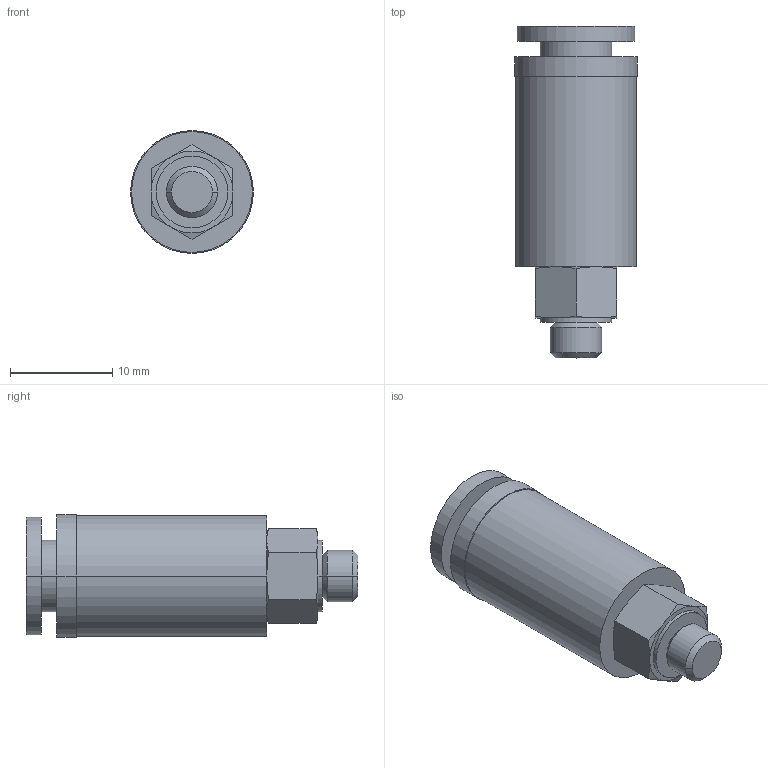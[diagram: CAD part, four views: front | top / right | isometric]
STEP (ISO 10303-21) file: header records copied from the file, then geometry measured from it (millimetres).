
FILE_DESCRIPTION( ( '' ), '1' );
FILE_NAME( 'G:/SMC狟婥/KCH06-M5.stp', '2023-03-08T05:59:53', ( '' ), ( '' ), ' ', ' ', ' ' );
FILE_SCHEMA( ( 'CONFIG_CONTROL_DESIGN' ) );
Length unit declared in the file: millimetre
Products named in the file (1): 1
Bounding box: 12 x 32.4 x 12 mm (x, y, z)
Volume: 2268.3 mm3; surface area: 1787 mm2
Topology: 1 solids, 1 shells, 45 faces, 92 edges, 56 vertices
Faces by surface type: cone 16, plane 15, cylinder 14
Entity records: 1202 total; most frequent: CARTESIAN_POINT 242, DIRECTION 204, ORIENTED_EDGE 184, EDGE_CURVE 92, AXIS2_PLACEMENT_3D 90, VERTEX_POINT 56, EDGE_LOOP 52, ADVANCED_FACE 45
